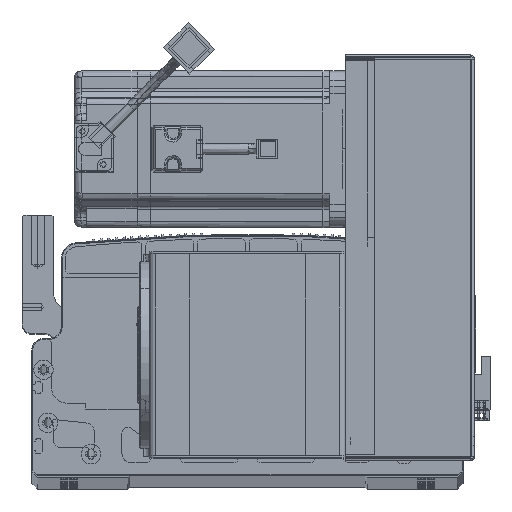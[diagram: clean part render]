
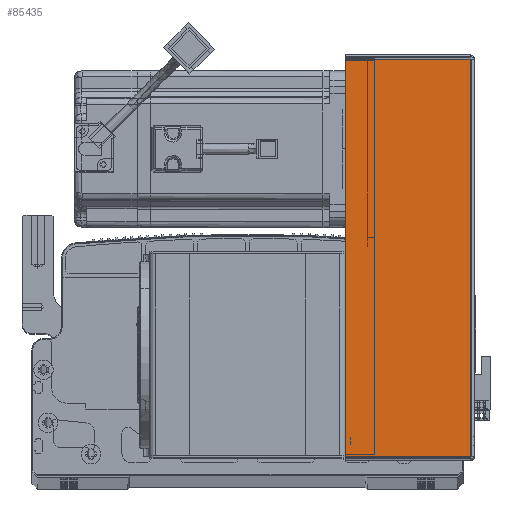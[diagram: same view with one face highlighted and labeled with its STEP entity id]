
A CAD part, top view. The second image highlights one B-rep face of the part: STEP entity #85435.
In plain terms, the highlighted planar face has unit normal (0, 0, 1) as drawn and (0, -1, 0) by its records, which use the part's own axes.
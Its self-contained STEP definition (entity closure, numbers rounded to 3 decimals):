
#7808 = FACE_OUTER_BOUND ( 'NONE', #65571, .T. ) ;
#8784 = VERTEX_POINT ( 'NONE', #71024 ) ;
#9008 = CARTESIAN_POINT ( 'NONE',  ( 64.5, -1.5, -203.293 ) ) ;
#9261 = LINE ( 'NONE', #49046, #90437 ) ;
#11963 = VECTOR ( 'NONE', #63696, 1000. ) ;
#22779 = CARTESIAN_POINT ( 'NONE',  ( 0.737, -1.5, -203.293 ) ) ;
#23201 = DIRECTION ( 'NONE',  ( 0., 0., 1. ) ) ;
#25250 = CARTESIAN_POINT ( 'NONE',  ( 0., -1.5, 0. ) ) ;
#25360 = LINE ( 'NONE', #96655, #11963 ) ;
#25733 = DIRECTION ( 'NONE',  ( 0., 0., 1. ) ) ;
#30756 = VERTEX_POINT ( 'NONE', #9008 ) ;
#32144 = DIRECTION ( 'NONE',  ( 0., 1., 0. ) ) ;
#32820 = PLANE ( 'NONE',  #68345 ) ;
#42930 = ORIENTED_EDGE ( 'NONE', *, *, #55679, .F. ) ;
#43647 = EDGE_CURVE ( 'NONE', #99415, #30756, #25360, .T. ) ;
#43666 = ORIENTED_EDGE ( 'NONE', *, *, #55232, .T. ) ;
#48998 = ORIENTED_EDGE ( 'NONE', *, *, #43647, .T. ) ;
#49046 = CARTESIAN_POINT ( 'NONE',  ( 64.5, -1.5, 0. ) ) ;
#52355 = VECTOR ( 'NONE', #23201, 1000. ) ;
#52577 = DIRECTION ( 'NONE',  ( 1., 0., 0. ) ) ;
#55232 = EDGE_CURVE ( 'NONE', #30756, #88832, #9261, .T. ) ;
#55679 = EDGE_CURVE ( 'NONE', #99415, #8784, #62245, .T. ) ;
#59837 = CARTESIAN_POINT ( 'NONE',  ( 0., -1.5, -0.707 ) ) ;
#62245 = LINE ( 'NONE', #62379, #52355 ) ;
#62379 = CARTESIAN_POINT ( 'NONE',  ( 0.737, -1.5, 0. ) ) ;
#63696 = DIRECTION ( 'NONE',  ( 1., 0., 0. ) ) ;
#65571 = EDGE_LOOP ( 'NONE', ( #42930, #48998, #43666, #79752 ) ) ;
#68345 = AXIS2_PLACEMENT_3D ( 'NONE', #25250, #32144, #88087 ) ;
#69482 = LINE ( 'NONE', #59837, #71946 ) ;
#71024 = CARTESIAN_POINT ( 'NONE',  ( 0.737, -1.5, -0.707 ) ) ;
#71946 = VECTOR ( 'NONE', #52577, 1000. ) ;
#79752 = ORIENTED_EDGE ( 'NONE', *, *, #99669, .F. ) ;
#85435 = ADVANCED_FACE ( 'NONE', ( #7808 ), #32820, .F. ) ;
#88087 = DIRECTION ( 'NONE',  ( -1., 0., 0. ) ) ;
#88832 = VERTEX_POINT ( 'NONE', #100150 ) ;
#90437 = VECTOR ( 'NONE', #25733, 1000. ) ;
#96655 = CARTESIAN_POINT ( 'NONE',  ( 0., -1.5, -203.293 ) ) ;
#99415 = VERTEX_POINT ( 'NONE', #22779 ) ;
#99669 = EDGE_CURVE ( 'NONE', #8784, #88832, #69482, .T. ) ;
#100150 = CARTESIAN_POINT ( 'NONE',  ( 64.5, -1.5, -0.707 ) ) ;
